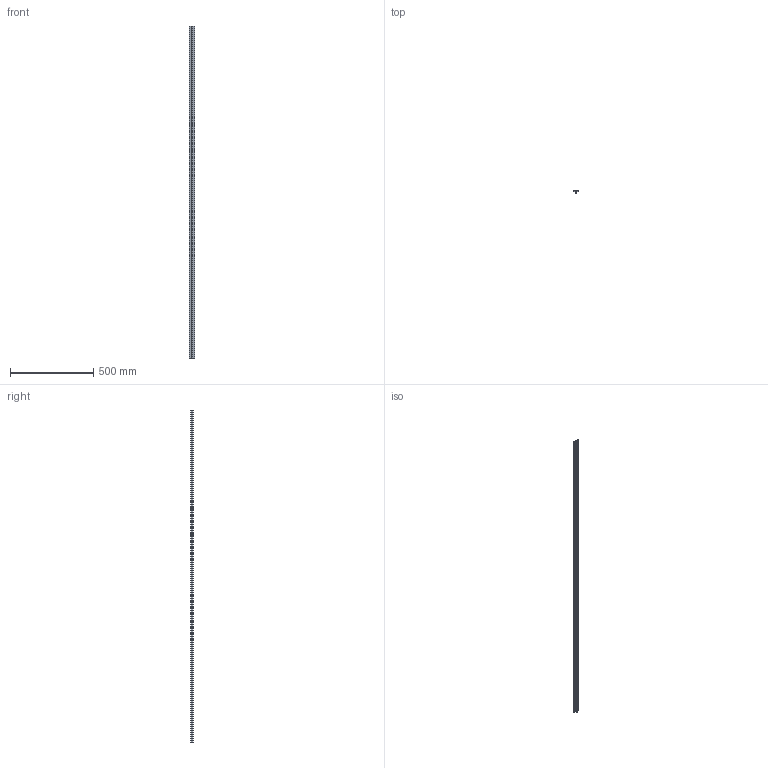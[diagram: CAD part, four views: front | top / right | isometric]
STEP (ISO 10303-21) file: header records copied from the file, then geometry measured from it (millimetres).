
FILE_DESCRIPTION (( 'STEP AP203' ), '1' );
FILE_NAME ('413085_Gleitleiste 8, schwarz, L=2000mm, ESD.step', '2022-06-10T10:12:14', ( '' ), ( '' ), 'SwSTEP 2.0', 'SolidWorks 2021', '' );
FILE_SCHEMA (( 'CONFIG_CONTROL_DESIGN' ));
Length unit declared in the file: millimetre
Products named in the file (1): 413085_Gleitleiste 8, schwarz, L=2000mm, ESD
Bounding box: 32 x 12.8 x 2000 mm (x, y, z)
Volume: 317152 mm3; surface area: 206763.8 mm2
Topology: 1 solids, 1 shells, 27 faces, 75 edges, 50 vertices
Faces by surface type: plane 19, cylinder 8
Entity records: 942 total; most frequent: CARTESIAN_POINT 153, ORIENTED_EDGE 150, DIRECTION 147, EDGE_CURVE 75, LINE 59, VECTOR 59, VERTEX_POINT 50, AXIS2_PLACEMENT_3D 44
